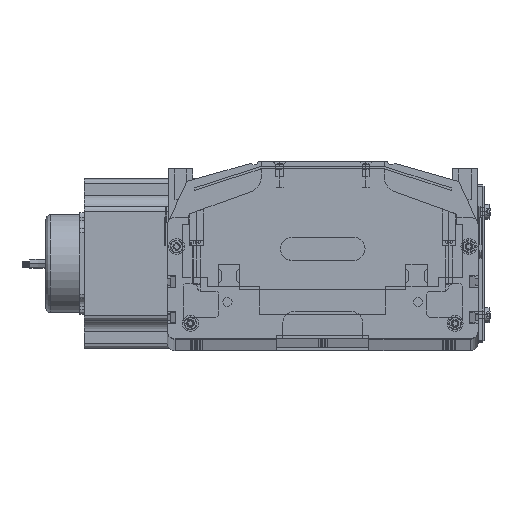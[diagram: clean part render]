
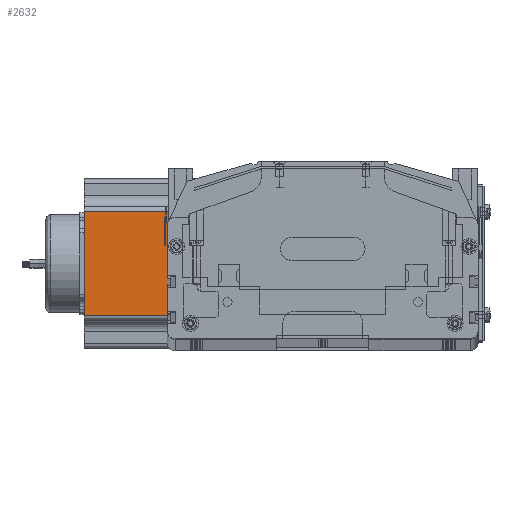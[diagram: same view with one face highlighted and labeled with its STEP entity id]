
A CAD part, top view. The second image highlights one B-rep face of the part: STEP entity #2632.
In plain terms, the highlighted planar face has unit normal (0, 0, 1) as drawn and (0, -1, 0) by its records, which use the part's own axes.
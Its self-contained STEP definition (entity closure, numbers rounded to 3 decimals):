
#2519 = VERTEX_POINT ( 'NONE', #8632 ) ;
#2530 = VERTEX_POINT ( 'NONE', #8446 ) ;
#2539 = VERTEX_POINT ( 'NONE', #8424 ) ;
#2551 = ORIENTED_EDGE ( 'NONE', *, *, #2554, .T. ) ;
#2553 = EDGE_CURVE ( 'NONE', #2556, #2530, #8782, .T. ) ;
#2554 = EDGE_CURVE ( 'NONE', #2519, #2556, #8545, .T. ) ;
#2556 = VERTEX_POINT ( 'NONE', #8552 ) ;
#2603 = EDGE_CURVE ( 'NONE', #2539, #2519, #8619, .T. ) ;
#2605 = ORIENTED_EDGE ( 'NONE', *, *, #2553, .T. ) ;
#2609 = ORIENTED_EDGE ( 'NONE', *, *, #2603, .T. ) ;
#2611 = EDGE_CURVE ( 'NONE', #2539, #2530, #8515, .T. ) ;
#2632 = ADVANCED_FACE ( 'NONE', ( #8561 ), #8699, .F. ) ;
#2724 = ORIENTED_EDGE ( 'NONE', *, *, #2611, .F. ) ;
#2726 = EDGE_LOOP ( 'NONE', ( #2551, #2605, #2724, #2609 ) ) ;
#8424 = CARTESIAN_POINT ( 'NONE',  ( 21.048, 0., 160.5 ) ) ;
#8446 = CARTESIAN_POINT ( 'NONE',  ( 88.952, 0., 160.5 ) ) ;
#8514 = CARTESIAN_POINT ( 'NONE',  ( 0., 0., 160.5 ) ) ;
#8515 = LINE ( 'NONE', #8514, #8565 ) ;
#8541 = DIRECTION ( 'NONE',  ( 1., 0., 0. ) ) ;
#8542 = VECTOR ( 'NONE', #8541, 1000. ) ;
#8544 = CARTESIAN_POINT ( 'NONE',  ( 0., 0., 0. ) ) ;
#8545 = LINE ( 'NONE', #8544, #8542 ) ;
#8549 = DIRECTION ( 'NONE',  ( 0., 0., 1. ) ) ;
#8552 = CARTESIAN_POINT ( 'NONE',  ( 88.952, 0., 0. ) ) ;
#8561 = FACE_OUTER_BOUND ( 'NONE', #2726, .T. ) ;
#8564 = DIRECTION ( 'NONE',  ( 1., 0., 0. ) ) ;
#8565 = VECTOR ( 'NONE', #8564, 1000. ) ;
#8568 = AXIS2_PLACEMENT_3D ( 'NONE', #8660, #8658, #8656 ) ;
#8616 = DIRECTION ( 'NONE',  ( 0., 0., -1. ) ) ;
#8617 = VECTOR ( 'NONE', #8616, 1000. ) ;
#8618 = CARTESIAN_POINT ( 'NONE',  ( 21.048, 0., 160.5 ) ) ;
#8619 = LINE ( 'NONE', #8618, #8617 ) ;
#8632 = CARTESIAN_POINT ( 'NONE',  ( 21.048, 0., 0. ) ) ;
#8656 = DIRECTION ( 'NONE',  ( 0., 0., 1. ) ) ;
#8658 = DIRECTION ( 'NONE',  ( 0., 1., 0. ) ) ;
#8660 = CARTESIAN_POINT ( 'NONE',  ( 0., 0., 160.5 ) ) ;
#8699 = PLANE ( 'NONE',  #8568 ) ;
#8780 = CARTESIAN_POINT ( 'NONE',  ( 88.952, 0., 160.5 ) ) ;
#8782 = LINE ( 'NONE', #8780, #8787 ) ;
#8787 = VECTOR ( 'NONE', #8549, 1000. ) ;
